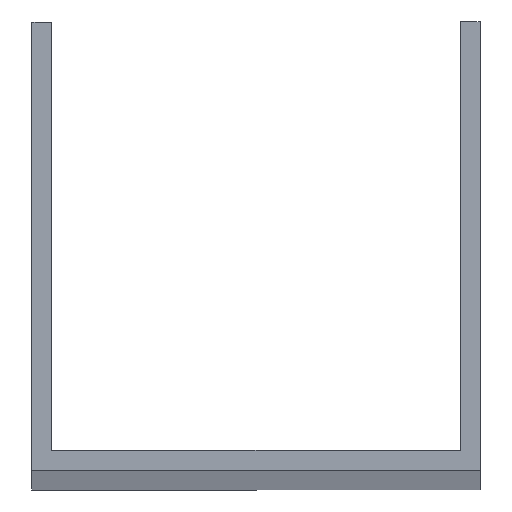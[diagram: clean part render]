
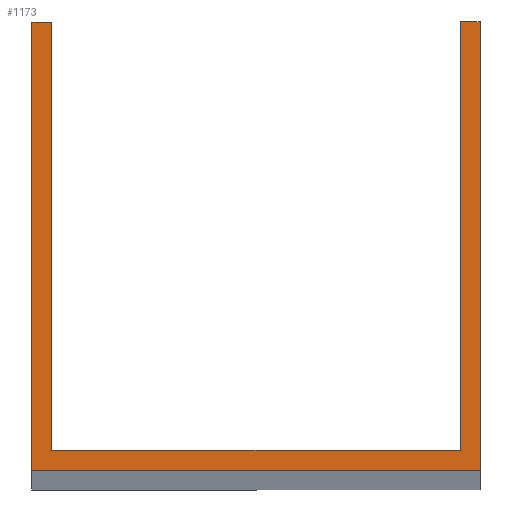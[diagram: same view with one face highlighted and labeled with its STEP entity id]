
A CAD part, top view. The second image highlights one B-rep face of the part: STEP entity #1173.
In plain terms, the highlighted planar face has unit normal (0, 0, 1).
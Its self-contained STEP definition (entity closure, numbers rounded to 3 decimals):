
#7 = AXIS2_PLACEMENT_3D ( 'NONE', #881, #617, #1404 ) ;
#15 = DIRECTION ( 'NONE',  ( -1., 0., 0. ) ) ;
#66 = CARTESIAN_POINT ( 'NONE',  ( -36., 79., 1000. ) ) ;
#103 = VERTEX_POINT ( 'NONE', #995 ) ;
#124 = VECTOR ( 'NONE', #1027, 1000. ) ;
#149 = CARTESIAN_POINT ( 'NONE',  ( -39.5, 0., 1000. ) ) ;
#183 = ORIENTED_EDGE ( 'NONE', *, *, #1032, .T. ) ;
#208 = VERTEX_POINT ( 'NONE', #1394 ) ;
#227 = VERTEX_POINT ( 'NONE', #1041 ) ;
#230 = ORIENTED_EDGE ( 'NONE', *, *, #1161, .T. ) ;
#285 = DIRECTION ( 'NONE',  ( 1., 0., 0. ) ) ;
#288 = CARTESIAN_POINT ( 'NONE',  ( 39.5, 0., 1000. ) ) ;
#332 = VECTOR ( 'NONE', #1397, 1000. ) ;
#358 = VECTOR ( 'NONE', #15, 1000. ) ;
#367 = LINE ( 'NONE', #383, #332 ) ;
#373 = DIRECTION ( 'NONE',  ( 0., 1., 0. ) ) ;
#383 = CARTESIAN_POINT ( 'NONE',  ( 39.5, 79., 1000. ) ) ;
#423 = CARTESIAN_POINT ( 'NONE',  ( 36., 79., 1000. ) ) ;
#435 = ORIENTED_EDGE ( 'NONE', *, *, #652, .T. ) ;
#513 = VECTOR ( 'NONE', #373, 1000. ) ;
#617 = DIRECTION ( 'NONE',  ( 0., 0., 1. ) ) ;
#626 = CARTESIAN_POINT ( 'NONE',  ( -39.5, 0., 1000. ) ) ;
#631 = LINE ( 'NONE', #626, #124 ) ;
#652 = EDGE_CURVE ( 'NONE', #1023, #103, #367, .T. ) ;
#654 = EDGE_LOOP ( 'NONE', ( #1221, #183, #230, #1336, #435, #1077, #852, #1560 ) ) ;
#656 = CARTESIAN_POINT ( 'NONE',  ( -36., 79., 1000. ) ) ;
#666 = DIRECTION ( 'NONE',  ( 0., -1., 0. ) ) ;
#699 = LINE ( 'NONE', #656, #1278 ) ;
#776 = EDGE_CURVE ( 'NONE', #103, #930, #1597, .T. ) ;
#786 = CARTESIAN_POINT ( 'NONE',  ( -39.5, 79., 1000. ) ) ;
#800 = LINE ( 'NONE', #940, #358 ) ;
#832 = VERTEX_POINT ( 'NONE', #66 ) ;
#852 = ORIENTED_EDGE ( 'NONE', *, *, #1493, .F. ) ;
#881 = CARTESIAN_POINT ( 'NONE',  ( 0., 0., 1000. ) ) ;
#897 = LINE ( 'NONE', #1401, #513 ) ;
#930 = VERTEX_POINT ( 'NONE', #423 ) ;
#940 = CARTESIAN_POINT ( 'NONE',  ( -39.5, 79., 1000. ) ) ;
#995 = CARTESIAN_POINT ( 'NONE',  ( 39.5, 79., 1000. ) ) ;
#1007 = PLANE ( 'NONE',  #7 ) ;
#1018 = VERTEX_POINT ( 'NONE', #1476 ) ;
#1023 = VERTEX_POINT ( 'NONE', #288 ) ;
#1027 = DIRECTION ( 'NONE',  ( 1., 0., 0. ) ) ;
#1032 = EDGE_CURVE ( 'NONE', #832, #208, #800, .T. ) ;
#1041 = CARTESIAN_POINT ( 'NONE',  ( -36., 3.5, 1000. ) ) ;
#1077 = ORIENTED_EDGE ( 'NONE', *, *, #776, .T. ) ;
#1112 = CARTESIAN_POINT ( 'NONE',  ( -39.5, 3.5, 1000. ) ) ;
#1156 = CARTESIAN_POINT ( 'NONE',  ( -39.5, 79., 1000. ) ) ;
#1161 = EDGE_CURVE ( 'NONE', #208, #1642, #1260, .T. ) ;
#1173 = ADVANCED_FACE ( 'NONE', ( #1284 ), #1007, .T. ) ;
#1221 = ORIENTED_EDGE ( 'NONE', *, *, #1289, .F. ) ;
#1260 = LINE ( 'NONE', #1156, #1280 ) ;
#1262 = EDGE_CURVE ( 'NONE', #1642, #1023, #631, .T. ) ;
#1278 = VECTOR ( 'NONE', #666, 1000. ) ;
#1280 = VECTOR ( 'NONE', #1649, 1000. ) ;
#1284 = FACE_OUTER_BOUND ( 'NONE', #654, .T. ) ;
#1289 = EDGE_CURVE ( 'NONE', #832, #227, #699, .T. ) ;
#1336 = ORIENTED_EDGE ( 'NONE', *, *, #1262, .T. ) ;
#1343 = EDGE_CURVE ( 'NONE', #227, #1018, #1480, .T. ) ;
#1393 = VECTOR ( 'NONE', #285, 1000. ) ;
#1394 = CARTESIAN_POINT ( 'NONE',  ( -39.5, 79., 1000. ) ) ;
#1397 = DIRECTION ( 'NONE',  ( 0., 1., 0. ) ) ;
#1401 = CARTESIAN_POINT ( 'NONE',  ( 36., 79., 1000. ) ) ;
#1404 = DIRECTION ( 'NONE',  ( 1., 0., 0. ) ) ;
#1476 = CARTESIAN_POINT ( 'NONE',  ( 36., 3.5, 1000. ) ) ;
#1480 = LINE ( 'NONE', #1112, #1393 ) ;
#1493 = EDGE_CURVE ( 'NONE', #1018, #930, #897, .T. ) ;
#1560 = ORIENTED_EDGE ( 'NONE', *, *, #1343, .F. ) ;
#1590 = DIRECTION ( 'NONE',  ( -1., 0., 0. ) ) ;
#1597 = LINE ( 'NONE', #786, #1630 ) ;
#1630 = VECTOR ( 'NONE', #1590, 1000. ) ;
#1642 = VERTEX_POINT ( 'NONE', #149 ) ;
#1649 = DIRECTION ( 'NONE',  ( 0., -1., 0. ) ) ;
